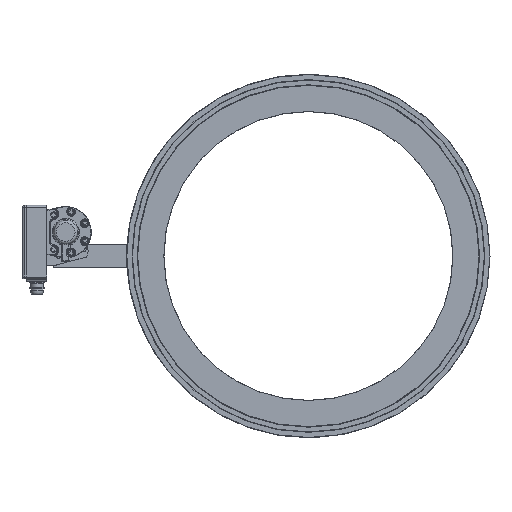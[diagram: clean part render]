
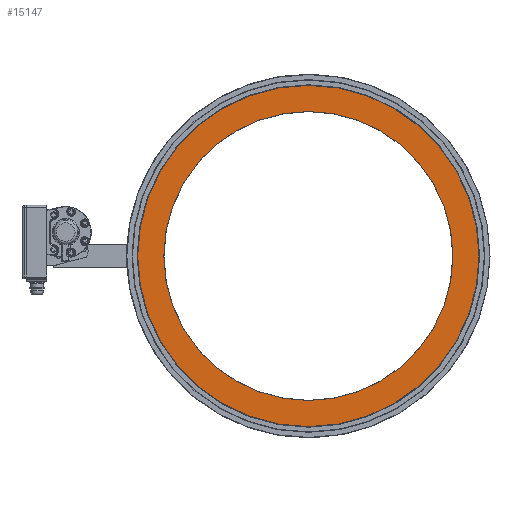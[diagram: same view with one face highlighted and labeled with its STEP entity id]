
A CAD part, top view. The second image highlights one B-rep face of the part: STEP entity #15147.
In plain terms, the highlighted planar face has unit normal (0, 0, 1).
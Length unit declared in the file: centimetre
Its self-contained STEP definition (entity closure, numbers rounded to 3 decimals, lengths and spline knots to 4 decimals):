
#4347=PLANE('',#16313);
#5148=VERTEX_POINT('',#30132);
#5149=VERTEX_POINT('',#30134);
#6340=CIRCLE('',#16352,29.075);
#6341=CIRCLE('',#16353,24.625);
#7287=EDGE_CURVE('',#5148,#5148,#6340,.T.);
#7288=EDGE_CURVE('',#5149,#5149,#6341,.T.);
#10035=ORIENTED_EDGE('',*,*,#7288,.F.);
#10036=ORIENTED_EDGE('',*,*,#7287,.F.);
#12981=EDGE_LOOP('',(#10035));
#12982=EDGE_LOOP('',(#10036));
#14139=FACE_BOUND('',#12981,.T.);
#14140=FACE_BOUND('',#12982,.T.);
#15147=ADVANCED_FACE('',(#14139,#14140),#4347,.F.);
#16313=AXIS2_PLACEMENT_3D('',#30050,#18338,$);
#16352=AXIS2_PLACEMENT_3D('',#30131,#18423,#18424);
#16353=AXIS2_PLACEMENT_3D('',#30133,#18425,#18426);
#18338=DIRECTION('',(0.,0.,-1.));
#18423=DIRECTION('',(0.,0.,-1.));
#18424=DIRECTION('',(-29.075,0.,0.));
#18425=DIRECTION('',(0.,0.,1.));
#18426=DIRECTION('',(24.625,0.,0.));
#30050=CARTESIAN_POINT('',(40.2535,-2.8808,-5.5525));
#30131=CARTESIAN_POINT('',(40.2535,-2.8808,-5.5525));
#30132=CARTESIAN_POINT('',(69.3285,-2.8808,-5.5525));
#30133=CARTESIAN_POINT('',(40.2535,-2.8808,-5.5525));
#30134=CARTESIAN_POINT('',(15.6285,-2.8808,-5.5525));
